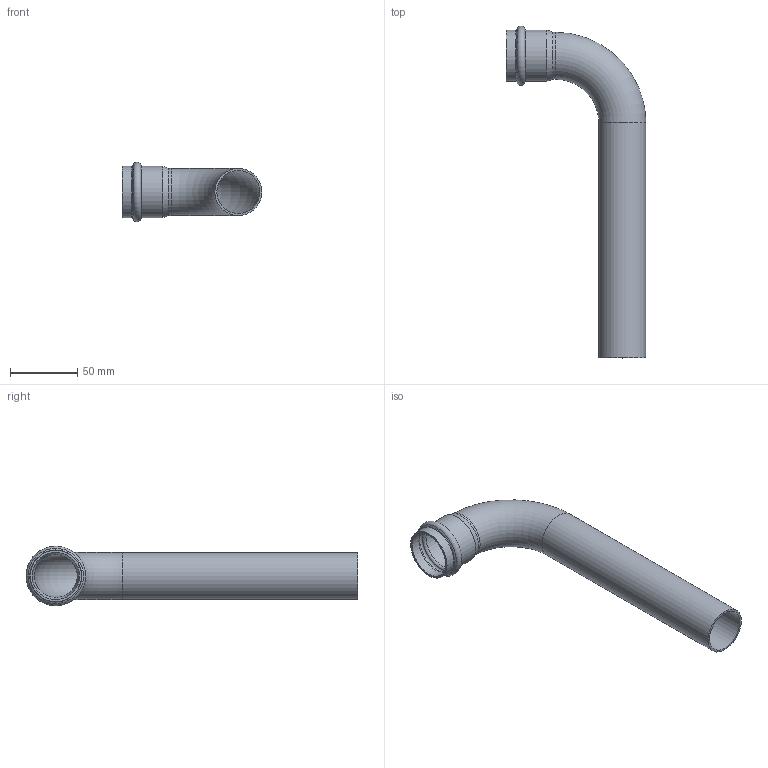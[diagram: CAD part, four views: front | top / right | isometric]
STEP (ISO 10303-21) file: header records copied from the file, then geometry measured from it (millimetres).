
FILE_DESCRIPTION((''),'2;1');
FILE_NAME('G:\Technics\CAD\Bauteile\035\69001L35(1).stp','2008-02-28T13:15:10',('herberg'),(''),'Autodesk Inventor 2008','Autodesk Inventor 2008','');
FILE_SCHEMA(('AUTOMOTIVE_DESIGN { 1 0 10303 214 1 1 1 1 }'));
Length unit declared in the file: millimetre
Products named in the file (1): 69001L35(1)
Bounding box: 104 x 247.15 x 44.29 mm (x, y, z)
Volume: 46988.1 mm3; surface area: 62981.7 mm2
Topology: 1 solids, 1 shells, 22 faces, 48 edges, 28 vertices
Faces by surface type: cylinder 8, torus 4, cone 4, bspline 4, plane 2
Full cylindrical faces by diameter (mm): 32 x2, 35 x2, 35.25 x2, 38.25 x2
Entity records: 634 total; most frequent: CARTESIAN_POINT 243, DIRECTION 82, ORIENTED_EDGE 44, EDGE_LOOP 44, AXIS2_PLACEMENT_3D 41, VERTEX_POINT 22, CIRCLE 22, EDGE_CURVE 22
